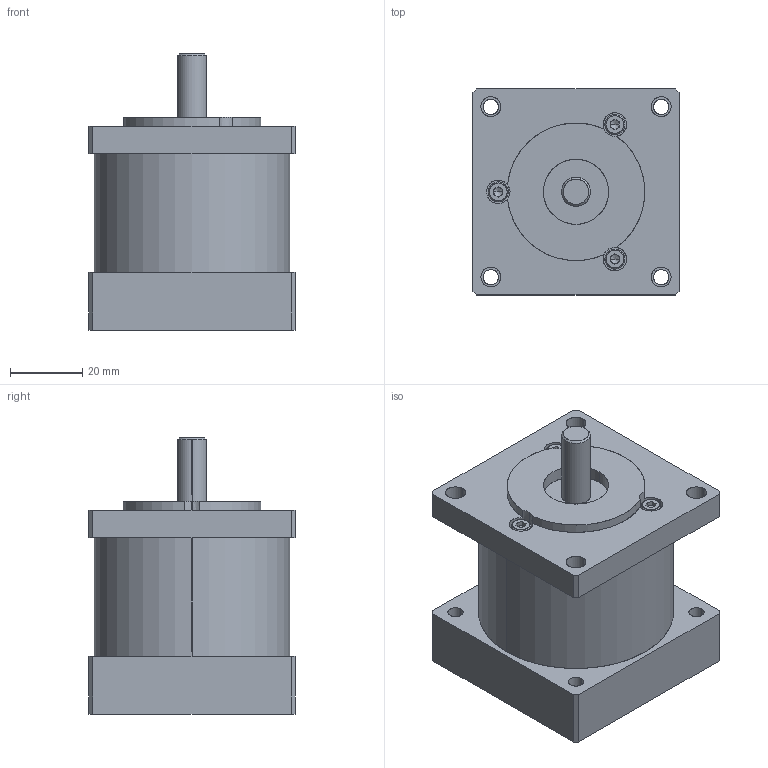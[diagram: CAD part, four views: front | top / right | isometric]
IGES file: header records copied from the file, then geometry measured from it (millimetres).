
Start section: SolidWorks IGES file using analytic representation for surfaces
Global section: file name: Z:\CAD Files\OtherCAD\ControlResources-CM123L-Brake\MPC023-24.IGS; native system: SolidWorks 2015; preprocessor: SolidWorks 2015; author: RENDER; date: 150521.171338; units: millimetre
Bounding box: 57 x 57 x 76.5 mm (x, y, z)
Surface area: 24348.1 mm2 (no closed solid volume)
Topology: 0 solids, 0 shells, 168 faces, 2610 edges, 2598 vertices
Faces by surface type: revolution 89, bspline 79
